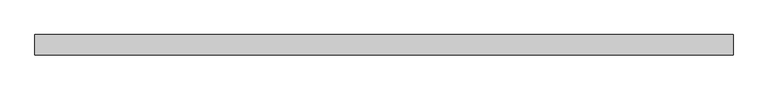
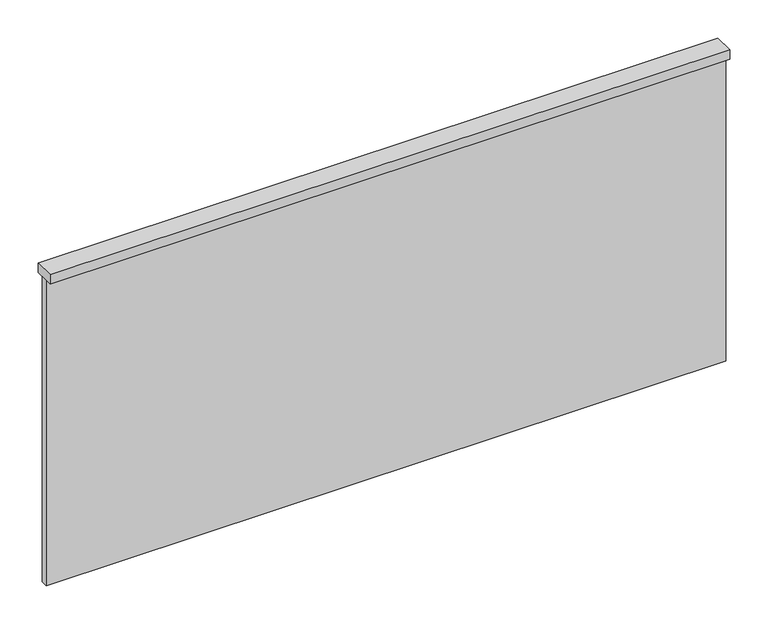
"""IFC4 building model written with IfcOpenShell, lengths in millimetres: proxy geometry, 防煙垂壁 : 可動防煙垂壁."""

import ifcopenshell
import ifcopenshell.guid

model = None  # the IFC model being written
_history = None  # IfcOwnerHistory: only IFC2X3 demands one
_inside = {}  # id of a spatial element -> (the spatial element, [elements in it])
_under = {}  # id of a project, library or spatial element -> (it, [spatial elements below it])
_declared = {}  # id of a project -> (the project, [libraries it declares])
_typed = {}  # id of a type object -> (the type object, [elements of that type])
_made_of = {}  # id of a material, layer set ... -> (it, [elements and type objects made of it])


def new_model(schema):
    """Start an empty IFC model of exactly this schema.

    Asked for "IFC4X3", IfcOpenShell would pick the latest addendum, in which some entities
    have other attributes; the version numbers below select the first issue.
    IFC2X3 requires an IfcOwnerHistory on every rooted entity: one is made here for all.
    """
    global model, _history
    if schema == "IFC4X3":
        model = ifcopenshell.file(schema_version=(4, 3, 0, 0))
    else:
        model = ifcopenshell.file(schema=schema)
    _inside.clear()
    _under.clear()
    _declared.clear()
    _typed.clear()
    _made_of.clear()
    _history = None
    if model.schema == "IFC2X3":
        org = make("IfcOrganization", Name="unknown")
        user = make(
            "IfcPersonAndOrganization",
            ThePerson=make("IfcPerson", FamilyName="unknown"),
            TheOrganization=org,
        )
        app = make(
            "IfcApplication",
            ApplicationDeveloper=org,
            Version="unknown",
            ApplicationFullName="unknown",
            ApplicationIdentifier="unknown",
        )
        _history = make(
            "IfcOwnerHistory",
            OwningUser=user,
            OwningApplication=app,
            ChangeAction="ADDED",
            CreationDate=0,
        )
    return model


def make(cls, **values):
    """One entity of the class cls with the attributes given. An attribute that is None is left unset."""
    return model.create_entity(
        cls, **{name: value for name, value in values.items() if value is not None}
    )


def rooted(cls, **values):
    """An entity with a GlobalId (a new one), such as an element, a storey or a relation."""
    return make(cls, GlobalId=ifcopenshell.guid.new(), OwnerHistory=_history, **values)


def si_unit(unit_type, name, prefix=None):
    """IfcSIUnit, for example si_unit("LENGTHUNIT", "METRE", prefix="MILLI")."""
    return make("IfcSIUnit", UnitType=unit_type, Prefix=prefix, Name=name)


def assignment(units):
    """IfcUnitAssignment: the units of a project."""
    return None if units is None else make("IfcUnitAssignment", Units=units)


def point(xyz):
    """IfcCartesianPoint."""
    return None if xyz is None else make("IfcCartesianPoint", Coordinates=xyz)


def direction(xyz):
    """IfcDirection."""
    return None if xyz is None else make("IfcDirection", DirectionRatios=xyz)


def frame(location, z_axis=None, x_axis=None):
    """IfcAxis2Placement3D, a coordinate frame: its origin and axes. An axis left out is left unset."""
    return make(
        "IfcAxis2Placement3D",
        Location=point(location),
        Axis=direction(z_axis),
        RefDirection=direction(x_axis),
    )


def origin():
    """The frame at (0, 0, 0) with its axes left unset."""
    return frame((0.0, 0.0, 0.0))


def place(relative_to, where):
    """IfcLocalPlacement: puts the frame where relative to a parent placement (None: the world)."""
    return make(
        "IfcLocalPlacement", PlacementRelTo=relative_to, RelativePlacement=where
    )


def context(
    kind, dimensions, precision=None, world=None, true_north=None, identifier=None
):
    """IfcGeometricRepresentationContext, for example the 3D "Model" context."""
    return make(
        "IfcGeometricRepresentationContext",
        ContextIdentifier=identifier,
        ContextType=kind,
        CoordinateSpaceDimension=dimensions,
        Precision=precision,
        WorldCoordinateSystem=world,
        TrueNorth=true_north,
    )


def project(units=None, contexts=None):
    """IfcProject with its units and contexts."""
    return rooted(
        "IfcProject",
        Name="project",
        RepresentationContexts=contexts,
        UnitsInContext=assignment(units),
    )


def spatial(cls, under=None, at=None, **own):
    """A site, building, storey or space (cls), placed at a placement, below another one or the project."""
    s = rooted(cls, ObjectPlacement=at, **own)
    if under is not None:
        _under.setdefault(under.id(), (under, []))[1].append(s)
    return s


def polyline(points):
    """IfcPolyline through the points."""
    return make("IfcPolyline", Points=[point(p) for p in points])


def outline(outer, holes=None, kind="AREA"):
    """IfcArbitraryClosedProfileDef: a profile drawn as a closed curve; with holes, ...WithVoids."""
    if holes is None:
        return make("IfcArbitraryClosedProfileDef", ProfileType=kind, OuterCurve=outer)
    return make(
        "IfcArbitraryProfileDefWithVoids",
        ProfileType=kind,
        OuterCurve=outer,
        InnerCurves=holes,
    )


def extrude(swept, where, along, depth):
    """IfcExtrudedAreaSolid: the profile swept, set in the frame where, extruded along a direction by depth."""
    return make(
        "IfcExtrudedAreaSolid",
        SweptArea=swept,
        Position=where,
        ExtrudedDirection=direction(along),
        Depth=depth,
    )


def shape(context_of_items, identifier, shape_type, items):
    """IfcShapeRepresentation: the items that make up one representation, for example the "Body"."""
    return make(
        "IfcShapeRepresentation",
        ContextOfItems=context_of_items,
        RepresentationIdentifier=identifier,
        RepresentationType=shape_type,
        Items=items,
    )


def source(mapping_origin, context_of_items, identifier, shape_type, items):
    """IfcRepresentationMap: a shape defined once, which mapped items show again and again."""
    return make(
        "IfcRepresentationMap",
        MappingOrigin=mapping_origin,
        MappedRepresentation=shape(context_of_items, identifier, shape_type, items),
    )


def transform(
    local_origin,
    x_axis=None,
    y_axis=None,
    z_axis=None,
    scale=None,
    scale2=None,
    scale3=None,
    uniform=True,
):
    """IfcCartesianTransformationOperator3D, or its non-uniform kind. x_axis, y_axis, z_axis: its Axis1, 2, 3."""
    if uniform:
        return make(
            "IfcCartesianTransformationOperator3D",
            Axis1=direction(x_axis),
            Axis2=direction(y_axis),
            LocalOrigin=point(local_origin),
            Scale=scale,
            Axis3=direction(z_axis),
        )
    return make(
        "IfcCartesianTransformationOperator3DnonUniform",
        Axis1=direction(x_axis),
        Axis2=direction(y_axis),
        LocalOrigin=point(local_origin),
        Scale=scale,
        Axis3=direction(z_axis),
        Scale2=scale2,
        Scale3=scale3,
    )


def mapped(mapping_source, mapping_target):
    """IfcMappedItem: shows the shape of a source again, moved by a transform."""
    return make(
        "IfcMappedItem", MappingSource=mapping_source, MappingTarget=mapping_target
    )


def made_of(thing, what):
    """Note that an element or type object is made of a material, layer set ...; save() writes the relation."""
    if what is not None:
        _made_of.setdefault(what.id(), (what, []))[1].append(thing)
    return thing


def element(
    cls,
    number,
    at=None,
    inside=None,
    cuts=None,
    type_object=None,
    material=None,
    context=None,
    identifier="Body",
    shape_type=None,
    held_by="IfcProductDefinitionShape",
    body=None,
    shapes=None,
    **own,
):
    """One element of the class cls, such as IfcWall. Its Tag is "e" and its number.

    at: its placement. inside: the storey or other place that contains it. cuts: it is an
    opening in that element (IfcRelVoidsElement). A single representation is given by context,
    identifier, shape_type and body (its items); several are given by shapes. held_by: the class
    of the entity that holds the representations. save() writes the other relations.
    """
    e = rooted(cls, Tag="e%d" % number, ObjectPlacement=at, **own)
    if body is not None:
        shapes = [shape(context, identifier, shape_type, body)]
    if shapes is not None:
        e.Representation = make(held_by, Representations=shapes)
    if inside is not None:
        _inside.setdefault(inside.id(), (inside, []))[1].append(e)
    if cuts is not None:
        rooted(
            "IfcRelVoidsElement", RelatingBuildingElement=cuts, RelatedOpeningElement=e
        )
    if type_object is not None:
        _typed.setdefault(type_object.id(), (type_object, []))[1].append(e)
    return made_of(e, material)


def aggregate(whole, parts):
    """IfcRelAggregates: a whole, such as a stair, and the parts it consists of."""
    return rooted("IfcRelAggregates", RelatingObject=whole, RelatedObjects=parts)


def save(model, path):
    """Write the relations noted so far, then the file.

    IfcRelAggregates (storeys below a building ...), IfcRelContainedInSpatialStructure (elements
    in a storey), IfcRelDefinesByType, IfcRelAssociatesMaterial and IfcRelDeclares: one each for
    every whole, place, type object, material and project.
    """
    for whole, parts in _under.values():
        aggregate(whole, parts)
    for where, things in _inside.values():
        rooted(
            "IfcRelContainedInSpatialStructure",
            RelatedElements=things,
            RelatingStructure=where,
        )
    for kind, things in _typed.values():
        rooted("IfcRelDefinesByType", RelatedObjects=things, RelatingType=kind)
    for what, things in _made_of.values():
        rooted("IfcRelAssociatesMaterial", RelatedObjects=things, RelatingMaterial=what)
    for by, libraries in _declared.values():
        rooted("IfcRelDeclares", RelatingContext=by, RelatedDefinitions=libraries)
    model.write(path)


def generic_models_3a1368d3(model_context):
    return source(origin(), model_context, "Body", "SweptSolid", [
        extrude(outline(polyline([(1020.0, 5.0), (1020.0, -5.0), (0.0, -5.0), (0.0, 5.0), (1020.0, 5.0)])), frame((0.0, 0.0, 1800.0), z_axis=(0.0, 0.0, 1.0), x_axis=(1.0, 0.0, 0.0)), (0.0, 0.0, 1.0), 485.0),
        extrude(outline(polyline([(1020.0, 15.0), (1020.0, -15.0), (0.0, -15.0), (0.0, 15.0), (1020.0, 15.0)])), frame((0.0, 0.0, 2285.0), z_axis=(0.0, 0.0, 1.0), x_axis=(1.0, 0.0, 0.0)), (0.0, 0.0, 1.0), 15.0),
    ])


if __name__ == "__main__":
    model = new_model("IFC4")
    model_context = context("Model", 3, world=origin())
    ifc_project = project(units=[si_unit("LENGTHUNIT", "METRE", prefix="MILLI")], contexts=[model_context])
    site = spatial("IfcSite", under=ifc_project)
    building = spatial("IfcBuilding", under=site)
    placement = place(None, origin())
    generic_models_shape = generic_models_3a1368d3(model_context)
    element("IfcBuildingElementProxy", 1, Name="防煙垂壁 : 可動防煙垂壁", ObjectType="防煙垂壁 : 可動防煙垂壁", at=placement, inside=building, context=model_context, shape_type="MappedRepresentation", body=[
        mapped(generic_models_shape, transform((0.0, 0.0, 0.0), x_axis=(1.0, 0.0, 0.0), y_axis=(0.0, 1.0, 0.0), z_axis=(0.0, 0.0, 1.0))),
    ])
    save(model, "model.ifc")
